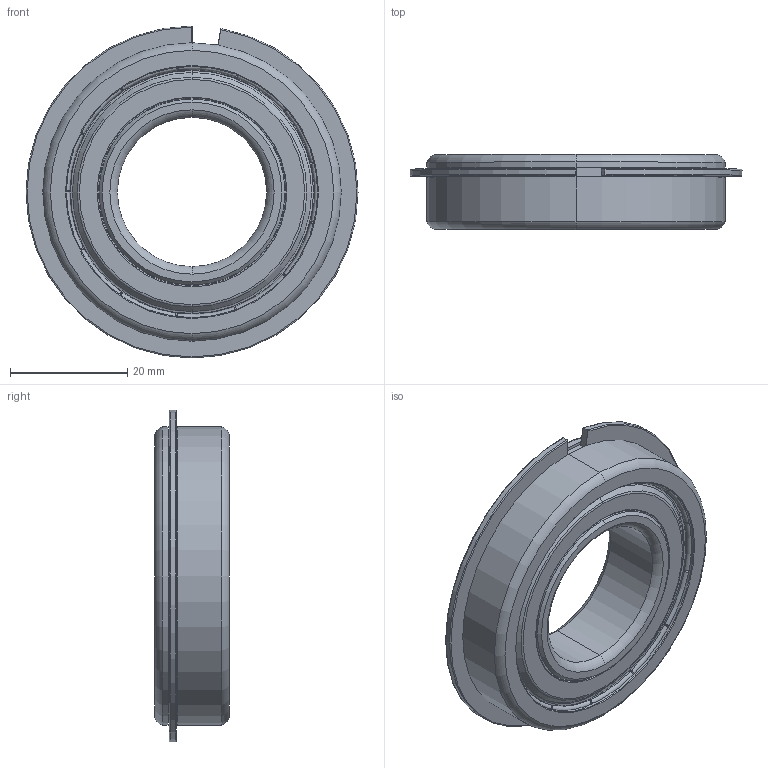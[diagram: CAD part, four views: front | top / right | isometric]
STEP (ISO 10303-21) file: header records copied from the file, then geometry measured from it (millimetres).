
FILE_DESCRIPTION (( 'STEP AP203' ), '1' );
FILE_NAME ('535050 assembly.STEP', '2016-10-07T16:39:01', ( '' ), ( '' ), 'SwSTEP 2.0', 'SolidWorks 2014', '' );
FILE_SCHEMA (( 'CONFIG_CONTROL_DESIGN' ));
Length unit declared in the file: inch
Products named in the file (3): 535050 assembly; 535050; 535050 snap ring
Assembly tree (2 placements, depth 2):
  535050 assembly
    535050
    535050 snap ring
Bounding box: 56.52 x 12.7 x 56.52 mm (x, y, z)
Volume: 18335.9 mm3; surface area: 10266 mm2
Topology: 28 solids, 28 shells, 206 faces, 366 edges, 228 vertices
Faces by surface type: torus 80, plane 78, cylinder 28, cone 12, bspline 8
Entity records: 5905 total; most frequent: CARTESIAN_POINT 1449, DIRECTION 1020, ORIENTED_EDGE 732, AXIS2_PLACEMENT_3D 483, EDGE_CURVE 366, CIRCLE 280, VERTEX_POINT 228, EDGE_LOOP 220
